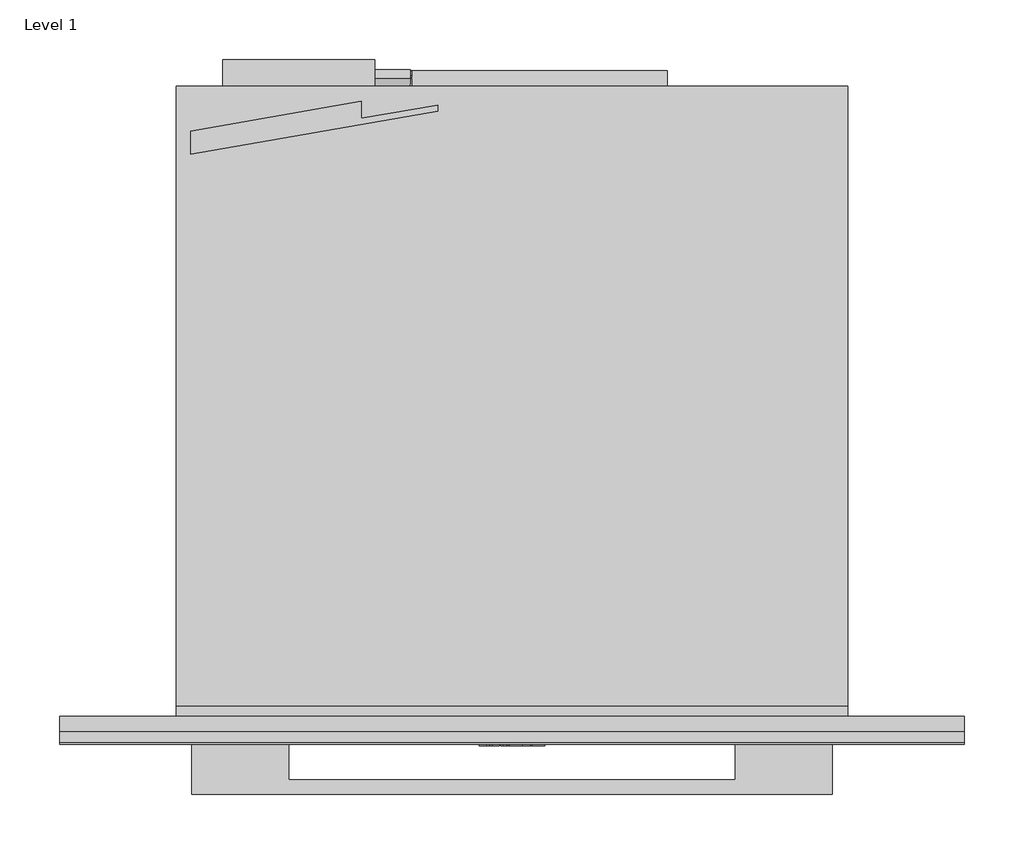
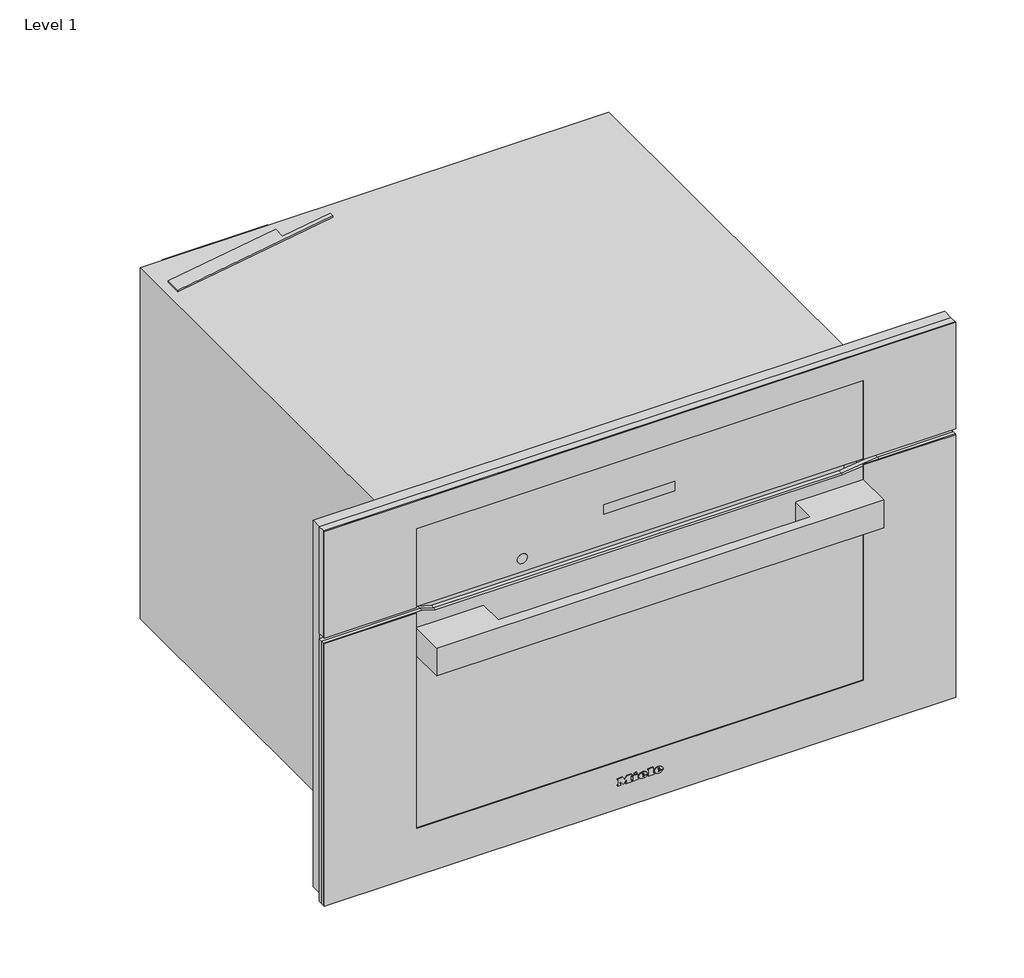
# One storey: 1 proxy.
"""IFC4 building model written with IfcOpenShell, lengths in millimetres."""

from ifc_helpers import new_model, si_unit, origin, place, context, project, spatial, transform, mapped, element, save
from components import specialty_equipment_035421ed

model = new_model("IFC4")

# Units and contexts
model_context = context("Model", 3, world=origin())
ifc_project = project(units=[si_unit("LENGTHUNIT", "METRE", prefix="MILLI")], contexts=[model_context])

# Site, building, storey
site = spatial("IfcSite", under=ifc_project)
building = spatial("IfcBuilding", under=site)
storey = spatial("IfcBuildingStorey", under=building, Name="Level 1", Elevation=0.0)

# Proxy
placement = place(None, origin())
specialty_equipment_shape = specialty_equipment_035421ed(model_context)
element("IfcBuildingElementProxy", 1, Name="11804470_USA_H7170BM_EDST-CLST : 22717046_USA_11804470_H7170BM_EDST-CLST", ObjectType="11804470_USA_H7170BM_EDST-CLST : 22717046_USA_11804470_H7170BM_EDST-CLST", at=placement, inside=storey, context=model_context, shape_type="MappedRepresentation", body=[
    mapped(specialty_equipment_shape, transform((0.0, 0.0, 0.0), x_axis=(1.0, 0.0, 0.0), y_axis=(0.0, 1.0, 0.0), z_axis=(0.0, 0.0, 1.0))),
])

save(model, "model.ifc")
